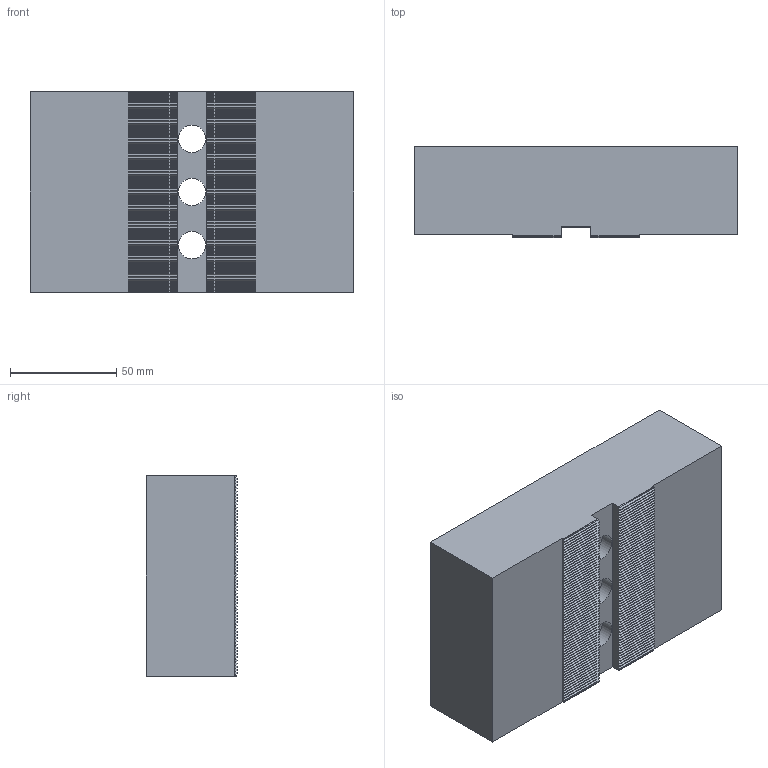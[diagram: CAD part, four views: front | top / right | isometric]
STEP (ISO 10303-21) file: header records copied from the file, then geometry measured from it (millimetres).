
FILE_DESCRIPTION (( 'STEP AP203' ), '1' );
FILE_NAME ('05-0172.STEP', '2021-09-14T23:15:26', ( '' ), ( '' ), 'SwSTEP 2.0', 'SolidWorks 2020', '' );
FILE_SCHEMA (( 'CONFIG_CONTROL_DESIGN' ));
Length unit declared in the file: inch
Products named in the file (1): 05-0172
Bounding box: 152.4 x 43.1 x 94.45 mm (x, y, z)
Volume: 567406.8 mm3; surface area: 59276.8 mm2
Topology: 1 solids, 1 shells, 533 faces, 1584 edges, 1056 vertices
Faces by surface type: plane 395, cylinder 138
Entity records: 17845 total; most frequent: CARTESIAN_POINT 3174, ORIENTED_EDGE 3168, DIRECTION 2928, EDGE_CURVE 1584, VECTOR 1308, LINE 1308, VERTEX_POINT 1056, AXIS2_PLACEMENT_3D 810
